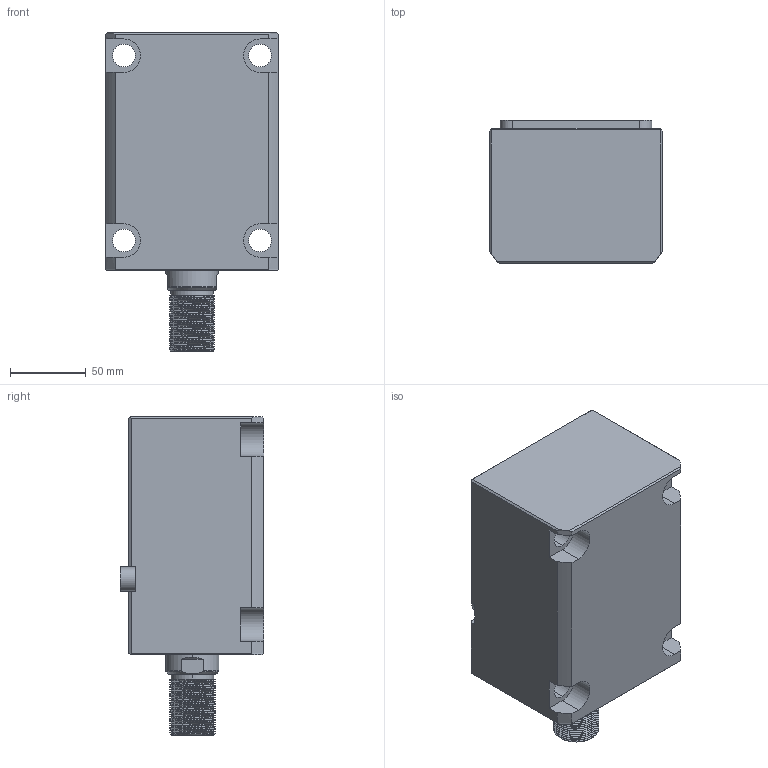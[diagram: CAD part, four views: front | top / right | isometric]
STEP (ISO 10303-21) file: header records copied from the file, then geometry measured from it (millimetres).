
FILE_DESCRIPTION (( 'STEP AP214' ), '1' );
FILE_NAME ('chtb-lam63x90w_asm.STEP', '2018-05-22T03:41:48', ( 'Windows' ), ( 'Microsoft' ), 'SwSTEP 2.0', 'SolidWorks 2015', '' );
FILE_SCHEMA (( 'AUTOMOTIVE_DESIGN' ));
Length unit declared in the file: millimetre
Products named in the file (5): CHTB-LAM63X90NBT; CHTB-LA63PJ; CHTB63X90WHSG; CHTB-63QG; chtb-lam63x90w_asm
Assembly tree (4 placements, depth 2):
  chtb-lam63x90w_asm
    CHTB-63QG
    CHTB63X90WHSG
    CHTB-LA63PJ
    CHTB-LAM63X90NBT
Bounding box: 114 x 94.5 x 210 mm (x, y, z)
Volume: 1359342 mm3; surface area: 184132.8 mm2
Topology: 4 solids, 4 shells, 236 faces, 696 edges, 473 vertices
Faces by surface type: cylinder 148, plane 58, bspline 15, cone 9, torus 6
Entity records: 23566 total; most frequent: CARTESIAN_POINT 17780, ORIENTED_EDGE 1384, DIRECTION 946, EDGE_CURVE 692, VERTEX_POINT 473, AXIS2_PLACEMENT_3D 344, EDGE_LOOP 259, VECTOR 258
